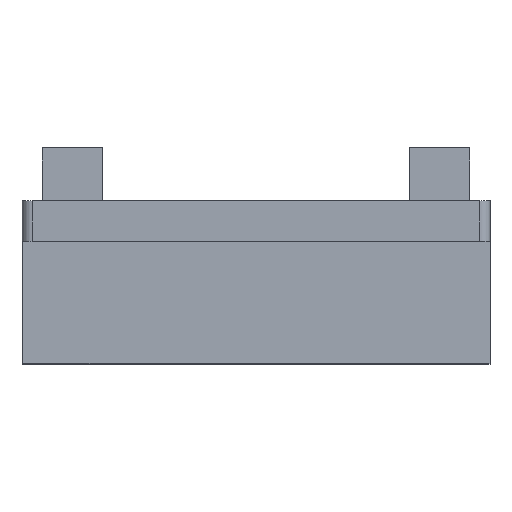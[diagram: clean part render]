
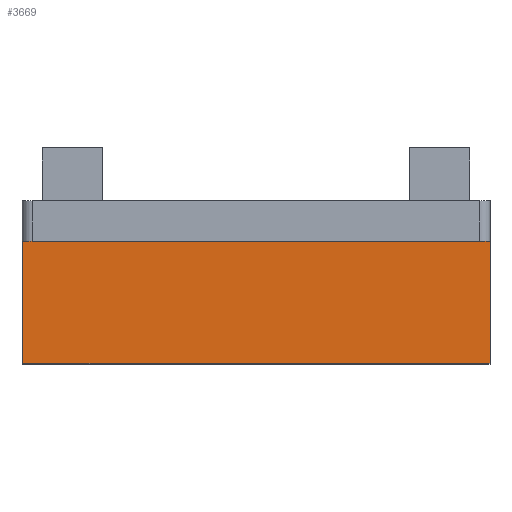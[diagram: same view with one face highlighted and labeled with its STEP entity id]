
A CAD part, top view. The second image highlights one B-rep face of the part: STEP entity #3669.
In plain terms, the highlighted planar face has unit normal (0, 0, 1).
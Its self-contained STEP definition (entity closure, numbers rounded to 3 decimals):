
#679 = PLANE('',#680);
#680 = AXIS2_PLACEMENT_3D('',#681,#682,#683);
#681 = CARTESIAN_POINT('',(11.5,-2.6,11.5));
#682 = DIRECTION('',(-1.,0.,0.));
#683 = DIRECTION('',(0.,0.,1.));
#733 = PLANE('',#734);
#734 = AXIS2_PLACEMENT_3D('',#735,#736,#737);
#735 = CARTESIAN_POINT('',(-11.5,-2.6,11.5));
#736 = DIRECTION('',(1.,0.,0.));
#737 = DIRECTION('',(0.,0.,-1.));
#1410 = VERTEX_POINT('',#1411);
#1411 = CARTESIAN_POINT('',(11.5,-4.6,10.9));
#1425 = PLANE('',#1426);
#1426 = AXIS2_PLACEMENT_3D('',#1427,#1428,#1429);
#1427 = CARTESIAN_POINT('',(-11.5,-4.6,10.5));
#1428 = DIRECTION('',(0.,1.,0.));
#1429 = DIRECTION('',(1.,0.,0.));
#1437 = EDGE_CURVE('',#1438,#1410,#1440,.T.);
#1438 = VERTEX_POINT('',#1439);
#1439 = CARTESIAN_POINT('',(11.5,-10.6,10.9));
#1440 = SURFACE_CURVE('',#1441,(#1445,#1452),.PCURVE_S1.);
#1441 = LINE('',#1442,#1443);
#1442 = CARTESIAN_POINT('',(11.5,-33.603,10.9));
#1443 = VECTOR('',#1444,1.);
#1444 = DIRECTION('',(0.,1.,0.));
#1445 = PCURVE('',#679,#1446);
#1446 = DEFINITIONAL_REPRESENTATION('',(#1447),#1451);
#1447 = LINE('',#1448,#1449);
#1448 = CARTESIAN_POINT('',(-0.6,-31.003));
#1449 = VECTOR('',#1450,1.);
#1450 = DIRECTION('',(0.,1.));
#1451 = ( GEOMETRIC_REPRESENTATION_CONTEXT(2) 
PARAMETRIC_REPRESENTATION_CONTEXT() REPRESENTATION_CONTEXT('2D SPACE',''
  ) );
#1452 = PCURVE('',#1453,#1458);
#1453 = PLANE('',#1454);
#1454 = AXIS2_PLACEMENT_3D('',#1455,#1456,#1457);
#1455 = CARTESIAN_POINT('',(11.5,-33.603,10.9));
#1456 = DIRECTION('',(0.,0.,-1.));
#1457 = DIRECTION('',(-1.,0.,0.));
#1458 = DEFINITIONAL_REPRESENTATION('',(#1459),#1463);
#1459 = LINE('',#1460,#1461);
#1460 = CARTESIAN_POINT('',(0.,0.));
#1461 = VECTOR('',#1462,1.);
#1462 = DIRECTION('',(0.,1.));
#1463 = ( GEOMETRIC_REPRESENTATION_CONTEXT(2) 
PARAMETRIC_REPRESENTATION_CONTEXT() REPRESENTATION_CONTEXT('2D SPACE',''
  ) );
#1481 = PLANE('',#1482);
#1482 = AXIS2_PLACEMENT_3D('',#1483,#1484,#1485);
#1483 = CARTESIAN_POINT('',(0.,-10.6,0.));
#1484 = DIRECTION('',(0.,1.,0.));
#1485 = DIRECTION('',(1.,0.,0.));
#3185 = VERTEX_POINT('',#3186);
#3186 = CARTESIAN_POINT('',(-11.5,-10.6,10.9));
#3207 = EDGE_CURVE('',#3185,#3208,#3210,.T.);
#3208 = VERTEX_POINT('',#3209);
#3209 = CARTESIAN_POINT('',(-11.5,-4.6,10.9));
#3210 = SURFACE_CURVE('',#3211,(#3215,#3222),.PCURVE_S1.);
#3211 = LINE('',#3212,#3213);
#3212 = CARTESIAN_POINT('',(-11.5,-33.603,10.9));
#3213 = VECTOR('',#3214,1.);
#3214 = DIRECTION('',(0.,1.,0.));
#3215 = PCURVE('',#733,#3216);
#3216 = DEFINITIONAL_REPRESENTATION('',(#3217),#3221);
#3217 = LINE('',#3218,#3219);
#3218 = CARTESIAN_POINT('',(0.6,-31.003));
#3219 = VECTOR('',#3220,1.);
#3220 = DIRECTION('',(0.,1.));
#3221 = ( GEOMETRIC_REPRESENTATION_CONTEXT(2) 
PARAMETRIC_REPRESENTATION_CONTEXT() REPRESENTATION_CONTEXT('2D SPACE',''
  ) );
#3222 = PCURVE('',#1453,#3223);
#3223 = DEFINITIONAL_REPRESENTATION('',(#3224),#3228);
#3224 = LINE('',#3225,#3226);
#3225 = CARTESIAN_POINT('',(23.,0.));
#3226 = VECTOR('',#3227,1.);
#3227 = DIRECTION('',(0.,1.));
#3228 = ( GEOMETRIC_REPRESENTATION_CONTEXT(2) 
PARAMETRIC_REPRESENTATION_CONTEXT() REPRESENTATION_CONTEXT('2D SPACE',''
  ) );
#3573 = EDGE_CURVE('',#1410,#3208,#3574,.T.);
#3574 = SURFACE_CURVE('',#3575,(#3579,#3586),.PCURVE_S1.);
#3575 = LINE('',#3576,#3577);
#3576 = CARTESIAN_POINT('',(11.5,-4.6,10.9));
#3577 = VECTOR('',#3578,1.);
#3578 = DIRECTION('',(-1.,0.,0.));
#3579 = PCURVE('',#1425,#3580);
#3580 = DEFINITIONAL_REPRESENTATION('',(#3581),#3585);
#3581 = LINE('',#3582,#3583);
#3582 = CARTESIAN_POINT('',(23.,-0.4));
#3583 = VECTOR('',#3584,1.);
#3584 = DIRECTION('',(-1.,0.));
#3585 = ( GEOMETRIC_REPRESENTATION_CONTEXT(2) 
PARAMETRIC_REPRESENTATION_CONTEXT() REPRESENTATION_CONTEXT('2D SPACE',''
  ) );
#3586 = PCURVE('',#1453,#3587);
#3587 = DEFINITIONAL_REPRESENTATION('',(#3588),#3592);
#3588 = LINE('',#3589,#3590);
#3589 = CARTESIAN_POINT('',(0.,29.003));
#3590 = VECTOR('',#3591,1.);
#3591 = DIRECTION('',(1.,0.));
#3592 = ( GEOMETRIC_REPRESENTATION_CONTEXT(2) 
PARAMETRIC_REPRESENTATION_CONTEXT() REPRESENTATION_CONTEXT('2D SPACE',''
  ) );
#3669 = ADVANCED_FACE('',(#3670),#1453,.F.);
#3670 = FACE_BOUND('',#3671,.T.);
#3671 = EDGE_LOOP('',(#3672,#3673,#3694,#3695));
#3672 = ORIENTED_EDGE('',*,*,#3207,.F.);
#3673 = ORIENTED_EDGE('',*,*,#3674,.T.);
#3674 = EDGE_CURVE('',#3185,#1438,#3675,.T.);
#3675 = SURFACE_CURVE('',#3676,(#3680,#3687),.PCURVE_S1.);
#3676 = LINE('',#3677,#3678);
#3677 = CARTESIAN_POINT('',(11.5,-10.6,10.9));
#3678 = VECTOR('',#3679,1.);
#3679 = DIRECTION('',(1.,0.,0.));
#3680 = PCURVE('',#1453,#3681);
#3681 = DEFINITIONAL_REPRESENTATION('',(#3682),#3686);
#3682 = LINE('',#3683,#3684);
#3683 = CARTESIAN_POINT('',(0.,23.003));
#3684 = VECTOR('',#3685,1.);
#3685 = DIRECTION('',(-1.,0.));
#3686 = ( GEOMETRIC_REPRESENTATION_CONTEXT(2) 
PARAMETRIC_REPRESENTATION_CONTEXT() REPRESENTATION_CONTEXT('2D SPACE',''
  ) );
#3687 = PCURVE('',#1481,#3688);
#3688 = DEFINITIONAL_REPRESENTATION('',(#3689),#3693);
#3689 = LINE('',#3690,#3691);
#3690 = CARTESIAN_POINT('',(11.5,-10.9));
#3691 = VECTOR('',#3692,1.);
#3692 = DIRECTION('',(1.,0.));
#3693 = ( GEOMETRIC_REPRESENTATION_CONTEXT(2) 
PARAMETRIC_REPRESENTATION_CONTEXT() REPRESENTATION_CONTEXT('2D SPACE',''
  ) );
#3694 = ORIENTED_EDGE('',*,*,#1437,.T.);
#3695 = ORIENTED_EDGE('',*,*,#3573,.T.);
